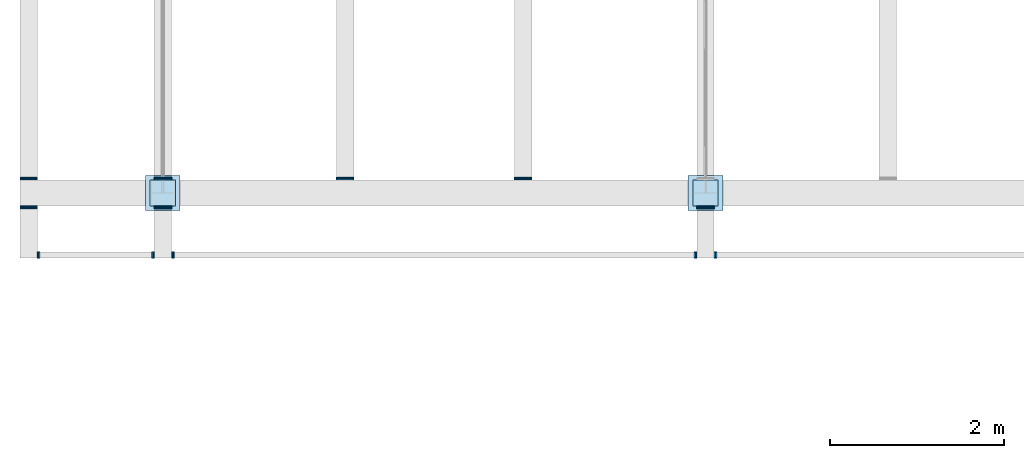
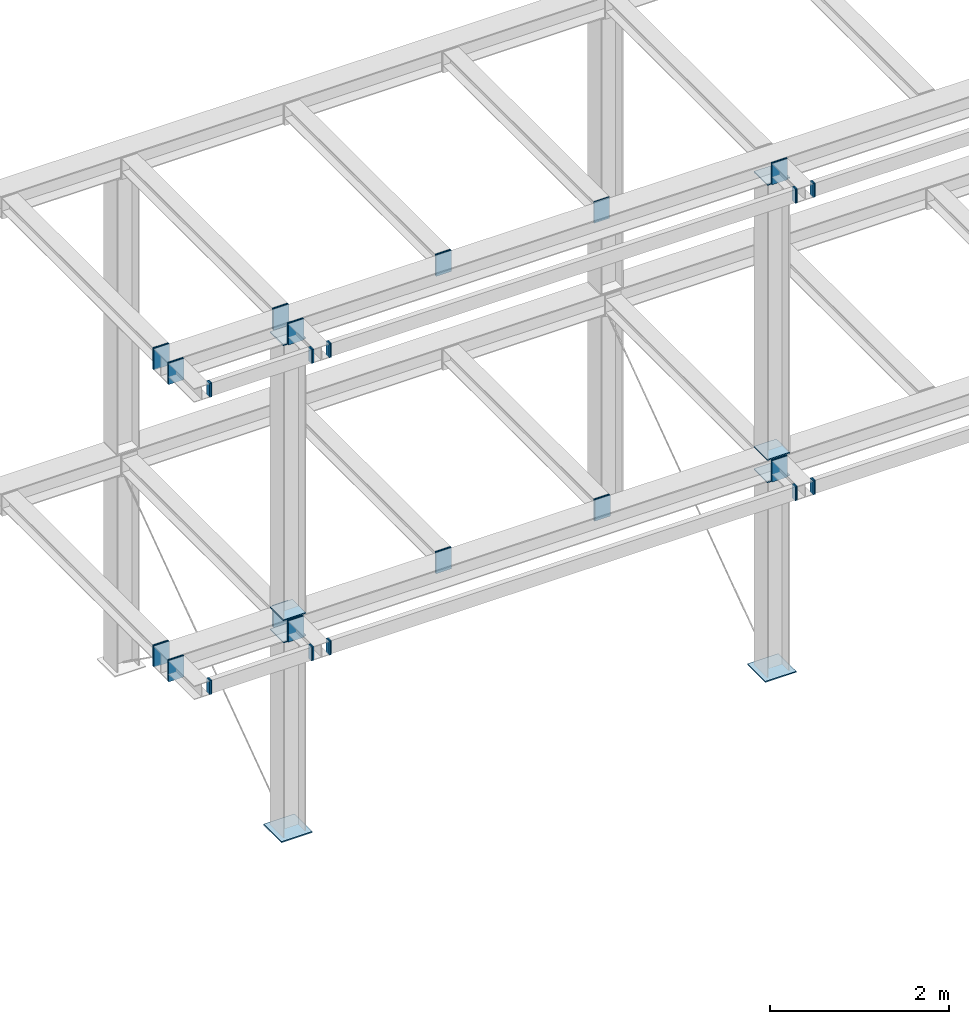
# One storey, part 14 of 24: 55 plates.
"""IFC2X3 building model written with IfcOpenShell, lengths in metres."""

import ifcopenshell
import ifcopenshell.guid

model = None  # the IFC model being written
_history = None  # IfcOwnerHistory: only IFC2X3 demands one
_inside = {}  # id of a spatial element -> (the spatial element, [elements in it])
_under = {}  # id of a project, library or spatial element -> (it, [spatial elements below it])
_declared = {}  # id of a project -> (the project, [libraries it declares])
_typed = {}  # id of a type object -> (the type object, [elements of that type])
_made_of = {}  # id of a material, layer set ... -> (it, [elements and type objects made of it])


def new_model(schema):
    """Start an empty IFC model of exactly this schema.

    Asked for "IFC4X3", IfcOpenShell would pick the latest addendum, in which some entities
    have other attributes; the version numbers below select the first issue.
    IFC2X3 requires an IfcOwnerHistory on every rooted entity: one is made here for all.
    """
    global model, _history
    if schema == "IFC4X3":
        model = ifcopenshell.file(schema_version=(4, 3, 0, 0))
    else:
        model = ifcopenshell.file(schema=schema)
    _inside.clear()
    _under.clear()
    _declared.clear()
    _typed.clear()
    _made_of.clear()
    _history = None
    if model.schema == "IFC2X3":
        org = make("IfcOrganization", Name="unknown")
        user = make(
            "IfcPersonAndOrganization",
            ThePerson=make("IfcPerson", FamilyName="unknown"),
            TheOrganization=org,
        )
        app = make(
            "IfcApplication",
            ApplicationDeveloper=org,
            Version="unknown",
            ApplicationFullName="unknown",
            ApplicationIdentifier="unknown",
        )
        _history = make(
            "IfcOwnerHistory",
            OwningUser=user,
            OwningApplication=app,
            ChangeAction="ADDED",
            CreationDate=0,
        )
    return model


def make(cls, **values):
    """One entity of the class cls with the attributes given. An attribute that is None is left unset."""
    return model.create_entity(
        cls, **{name: value for name, value in values.items() if value is not None}
    )


def entity(cls, *values):
    """Any entity or typed value of the class cls, its attributes in the order of the schema. None: left unset."""
    e = model.create_entity(cls)
    for i, value in enumerate(values):
        if value is not None:
            e[i] = value
    return e


def rooted(cls, **values):
    """An entity with a GlobalId (a new one), such as an element, a storey or a relation."""
    return make(cls, GlobalId=ifcopenshell.guid.new(), OwnerHistory=_history, **values)


def si_unit(unit_type, name, prefix=None):
    """IfcSIUnit, for example si_unit("LENGTHUNIT", "METRE", prefix="MILLI")."""
    return make("IfcSIUnit", UnitType=unit_type, Prefix=prefix, Name=name)


def converted_unit(unit_type, name, factor, base, dimensions=None, offset=None):
    """IfcConversionBasedUnit, such as the inch: factor (a typed value) times the base unit."""
    return make(
        "IfcConversionBasedUnit"
        if offset is None
        else "IfcConversionBasedUnitWithOffset",
        ConversionOffset=offset,
        Dimensions=None
        if dimensions is None
        else entity("IfcDimensionalExponents", *dimensions),
        UnitType=unit_type,
        Name=name,
        ConversionFactor=make(
            "IfcMeasureWithUnit", ValueComponent=factor, UnitComponent=base
        ),
    )


def derived_unit(unit_type, elements):
    """IfcDerivedUnit: a product of units, each with its exponent."""
    return make(
        "IfcDerivedUnit",
        Elements=[
            make("IfcDerivedUnitElement", Unit=unit, Exponent=power)
            for unit, power in elements
        ],
        UnitType=unit_type,
    )


def assignment(units):
    """IfcUnitAssignment: the units of a project."""
    return None if units is None else make("IfcUnitAssignment", Units=units)


def point(xyz):
    """IfcCartesianPoint."""
    return None if xyz is None else make("IfcCartesianPoint", Coordinates=xyz)


def direction(xyz):
    """IfcDirection."""
    return None if xyz is None else make("IfcDirection", DirectionRatios=xyz)


def frame(location, z_axis=None, x_axis=None):
    """IfcAxis2Placement3D, a coordinate frame: its origin and axes. An axis left out is left unset."""
    return make(
        "IfcAxis2Placement3D",
        Location=point(location),
        Axis=direction(z_axis),
        RefDirection=direction(x_axis),
    )


def origin():
    """The frame at (0, 0, 0) with its axes left unset."""
    return frame((0.0, 0.0, 0.0))


def place(relative_to, where):
    """IfcLocalPlacement: puts the frame where relative to a parent placement (None: the world)."""
    return make(
        "IfcLocalPlacement", PlacementRelTo=relative_to, RelativePlacement=where
    )


def context(
    kind, dimensions, precision=None, world=None, true_north=None, identifier=None
):
    """IfcGeometricRepresentationContext, for example the 3D "Model" context."""
    return make(
        "IfcGeometricRepresentationContext",
        ContextIdentifier=identifier,
        ContextType=kind,
        CoordinateSpaceDimension=dimensions,
        Precision=precision,
        WorldCoordinateSystem=world,
        TrueNorth=true_north,
    )


def subcontext(parent, identifier, kind, view, scale=None):
    """IfcGeometricRepresentationSubContext, for example "Body" below "Model"."""
    return make(
        "IfcGeometricRepresentationSubContext",
        ContextIdentifier=identifier,
        ContextType=kind,
        ParentContext=parent,
        TargetScale=scale,
        TargetView=view,
    )


def project(units=None, contexts=None):
    """IfcProject with its units and contexts."""
    return rooted(
        "IfcProject",
        Name="project",
        RepresentationContexts=contexts,
        UnitsInContext=assignment(units),
    )


def spatial(cls, under=None, at=None, **own):
    """A site, building, storey or space (cls), placed at a placement, below another one or the project."""
    s = rooted(cls, ObjectPlacement=at, **own)
    if under is not None:
        _under.setdefault(under.id(), (under, []))[1].append(s)
    return s


def faces_of(points, faces, orient=None, outer=None):
    """IfcFace entities. A face is a list of loops; a loop is a list of indices into points, from 0.

    orient and outer hold one flag for each loop. By default every Orientation is true, the
    first loop of a face is its IfcFaceOuterBound and the others are IfcFaceBound.
    """
    made = []
    for i, loops in enumerate(faces):
        bounds = []
        for j, loop in enumerate(loops):
            is_outer = j == 0 if outer is None else outer[i][j]
            bounds.append(
                make(
                    "IfcFaceOuterBound" if is_outer else "IfcFaceBound",
                    Bound=make("IfcPolyLoop", Polygon=[points[k] for k in loop]),
                    Orientation=True if orient is None else orient[i][j],
                )
            )
        made.append(make("IfcFace", Bounds=bounds))
    return made


def faceted_brep(points, faces, orient=None, outer=None, voids=None):
    """IfcFacetedBrep: a solid bounded by flat faces; with voids (closed shells), ...WithVoids."""
    shared = [point(p) for p in points]
    hull = make("IfcClosedShell", CfsFaces=faces_of(shared, faces, orient, outer))
    if voids is None:
        return make("IfcFacetedBrep", Outer=hull)
    return make(
        "IfcFacetedBrepWithVoids",
        Outer=hull,
        Voids=[
            make(cls, CfsFaces=faces_of(shared, fs, o, b)) for cls, fs, o, b in voids
        ],
    )


def shape(context_of_items, identifier, shape_type, items):
    """IfcShapeRepresentation: the items that make up one representation, for example the "Body"."""
    return make(
        "IfcShapeRepresentation",
        ContextOfItems=context_of_items,
        RepresentationIdentifier=identifier,
        RepresentationType=shape_type,
        Items=items,
    )


def material(Name=None, Category=None):
    """IfcMaterial."""
    return make("IfcMaterial", Name=Name, Category=Category)


def made_of(thing, what):
    """Note that an element or type object is made of a material, layer set ...; save() writes the relation."""
    if what is not None:
        _made_of.setdefault(what.id(), (what, []))[1].append(thing)
    return thing


def element(
    cls,
    number,
    at=None,
    inside=None,
    cuts=None,
    type_object=None,
    material=None,
    context=None,
    identifier="Body",
    shape_type=None,
    held_by="IfcProductDefinitionShape",
    body=None,
    shapes=None,
    **own,
):
    """One element of the class cls, such as IfcWall. Its Tag is "e" and its number.

    at: its placement. inside: the storey or other place that contains it. cuts: it is an
    opening in that element (IfcRelVoidsElement). A single representation is given by context,
    identifier, shape_type and body (its items); several are given by shapes. held_by: the class
    of the entity that holds the representations. save() writes the other relations.
    """
    e = rooted(cls, Tag="e%d" % number, ObjectPlacement=at, **own)
    if body is not None:
        shapes = [shape(context, identifier, shape_type, body)]
    if shapes is not None:
        e.Representation = make(held_by, Representations=shapes)
    if inside is not None:
        _inside.setdefault(inside.id(), (inside, []))[1].append(e)
    if cuts is not None:
        rooted(
            "IfcRelVoidsElement", RelatingBuildingElement=cuts, RelatedOpeningElement=e
        )
    if type_object is not None:
        _typed.setdefault(type_object.id(), (type_object, []))[1].append(e)
    return made_of(e, material)


def aggregate(whole, parts):
    """IfcRelAggregates: a whole, such as a stair, and the parts it consists of."""
    return rooted("IfcRelAggregates", RelatingObject=whole, RelatedObjects=parts)


def save(model, path):
    """Write the relations noted so far, then the file.

    IfcRelAggregates (storeys below a building ...), IfcRelContainedInSpatialStructure (elements
    in a storey), IfcRelDefinesByType, IfcRelAssociatesMaterial and IfcRelDeclares: one each for
    every whole, place, type object, material and project.
    """
    for whole, parts in _under.values():
        aggregate(whole, parts)
    for where, things in _inside.values():
        rooted(
            "IfcRelContainedInSpatialStructure",
            RelatedElements=things,
            RelatingStructure=where,
        )
    for kind, things in _typed.values():
        rooted("IfcRelDefinesByType", RelatedObjects=things, RelatingType=kind)
    for what, things in _made_of.values():
        rooted("IfcRelAssociatesMaterial", RelatedObjects=things, RelatingMaterial=what)
    for by, libraries in _declared.values():
        rooted("IfcRelDeclares", RelatingContext=by, RelatedDefinitions=libraries)
    model.write(path)


model = new_model("IFC2X3")

# Units and contexts
model_context = context("Model", 3, precision=1e-05, world=origin())
body_context = subcontext(model_context, "Body", "Model", "MODEL_VIEW")
ifc_project = project(units=[si_unit("LENGTHUNIT", "METRE"), si_unit("AREAUNIT", "SQUARE_METRE"), si_unit("VOLUMEUNIT", "CUBIC_METRE"), si_unit("MASSUNIT", "GRAM", prefix="KILO"), converted_unit("PLANEANGLEUNIT", "DEGREE", entity("IfcPlaneAngleMeasure", 0.0174532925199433), si_unit("PLANEANGLEUNIT", "RADIAN"), dimensions=[0, 0, 0, 0, 0, 0, 0]), derived_unit("THERMALTRANSMITTANCEUNIT", [(si_unit("POWERUNIT", "WATT"), 1), (si_unit("THERMODYNAMICTEMPERATUREUNIT", "KELVIN"), -1), (si_unit("LENGTHUNIT", "METRE"), -2)]), derived_unit("VOLUMETRICFLOWRATEUNIT", [(si_unit("LENGTHUNIT", "METRE"), 3), (converted_unit("TIMEUNIT", "hour", entity("IfcTimeMeasure", 3600.0), si_unit("TIMEUNIT", "SECOND"), dimensions=[0, 0, 1, 0, 0, 0, 0]), -1), (si_unit("LENGTHUNIT", "METRE"), -1)])], contexts=[model_context])

# Site, building, storey
site_placement = place(None, origin())
site = spatial("IfcSite", under=ifc_project, at=site_placement, Name="TWP_Speiseverteilzentrum SBW VZ II", CompositionType="ELEMENT")
building_placement = place(site_placement, origin())
building = spatial("IfcBuilding", under=site, at=building_placement, Name="Speiseverteilzentrum SBW VZ II", CompositionType="ELEMENT")
storey_placement = place(building_placement, frame((0.0, 0.0, 0.6957)))
storey = spatial("IfcBuildingStorey", under=building, at=storey_placement, Name="EG_Technik_FFB", CompositionType="ELEMENT", Elevation=0.6957)

# Plates
ifc_material_1 = material(Name="S235")
plate_1_placement = place(storey_placement, frame((49.5, 87.6399999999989, 3.34)))
element("IfcPlate", 1, at=plate_1_placement, inside=storey, material=ifc_material_1, Name="Stirnplatte", ObjectType="PLATE", context=body_context, shape_type="Brep", body=[
    faceted_brep([(0.0, 0.0, 0.0), (0.0, 0.015, 0.0), (0.0, 0.015, 0.29), (0.0, 0.0, 0.29), (0.2, 0.0, 0.0), (0.2, 0.015, 0.0), (0.2, 0.0, 0.29), (0.2, 0.015, 0.29)], [[[0, 1, 2, 3]], [[0, 4, 5, 1]], [[4, 6, 7, 5]], [[6, 3, 2, 7]], [[6, 4, 0, 3]], [[2, 1, 5, 7]]], orient=[[False], [False], [False], [False], [False], [False]]),
])
ifc_material_2 = material(Name="S235")
plate_2_placement = place(storey_placement, frame((49.5, 87.6249999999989, 3.34)))
element("IfcPlate", 2, at=plate_2_placement, inside=storey, material=ifc_material_2, Name="Stirnplatte", ObjectType="PLATE", context=body_context, shape_type="Brep", body=[
    faceted_brep([(0.0, 0.0, 0.0), (0.0, 0.015, 0.0), (0.0, 0.015, 0.29), (0.0, 0.0, 0.29), (0.2, 0.0, 0.0), (0.2, 0.015, 0.0), (0.2, 0.0, 0.29), (0.2, 0.015, 0.29)], [[[0, 1, 2, 3]], [[0, 4, 5, 1]], [[4, 6, 7, 5]], [[6, 3, 2, 7]], [[6, 4, 0, 3]], [[2, 1, 5, 7]]], orient=[[False], [False], [False], [False], [False], [False]]),
])
ifc_material_3 = material(Name="S235")
plate_3_placement = place(storey_placement, frame((49.5, 87.6399999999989, 7.4)))
element("IfcPlate", 3, at=plate_3_placement, inside=storey, material=ifc_material_3, Name="Stirnplatte", ObjectType="PLATE", context=body_context, shape_type="Brep", body=[
    faceted_brep([(0.0, 0.0, 0.0), (0.0, 0.015, 0.0), (0.0, 0.015, 0.29), (0.0, 0.0, 0.29), (0.2, 0.0, 0.0), (0.2, 0.015, 0.0), (0.2, 0.0, 0.29), (0.2, 0.015, 0.29)], [[[0, 1, 2, 3]], [[0, 4, 5, 1]], [[4, 6, 7, 5]], [[6, 3, 2, 7]], [[6, 4, 0, 3]], [[2, 1, 5, 7]]], orient=[[False], [False], [False], [False], [False], [False]]),
])
ifc_material_4 = material(Name="S235")
plate_4_placement = place(storey_placement, frame((49.5, 87.6249999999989, 7.4)))
element("IfcPlate", 4, at=plate_4_placement, inside=storey, material=ifc_material_4, Name="Stirnplatte", ObjectType="PLATE", context=body_context, shape_type="Brep", body=[
    faceted_brep([(0.0, 0.0, 0.0), (0.0, 0.015, 0.0), (0.0, 0.015, 0.29), (0.0, 0.0, 0.29), (0.2, 0.0, 0.0), (0.2, 0.015, 0.0), (0.2, 0.0, 0.29), (0.2, 0.015, 0.29)], [[[0, 1, 2, 3]], [[0, 4, 5, 1]], [[4, 6, 7, 5]], [[6, 3, 2, 7]], [[6, 4, 0, 3]], [[2, 1, 5, 7]]], orient=[[False], [False], [False], [False], [False], [False]]),
])
ifc_material_5 = material(Name="S235")
plate_5_placement = place(storey_placement, frame((51.55, 87.6399999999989, 3.34)))
element("IfcPlate", 5, at=plate_5_placement, inside=storey, material=ifc_material_5, Name="Stirnplatte", ObjectType="PLATE", context=body_context, shape_type="Brep", body=[
    faceted_brep([(0.0, 0.0, 0.0), (0.0, 0.015, 0.0), (0.0, 0.015, 0.29), (0.0, 0.0, 0.29), (0.2, 0.0, 0.0), (0.2, 0.015, 0.0), (0.2, 0.0, 0.29), (0.2, 0.015, 0.29)], [[[0, 1, 2, 3]], [[0, 4, 5, 1]], [[4, 6, 7, 5]], [[6, 3, 2, 7]], [[6, 4, 0, 3]], [[2, 1, 5, 7]]], orient=[[False], [False], [False], [False], [False], [False]]),
])
ifc_material_6 = material(Name="S235")
plate_6_placement = place(storey_placement, frame((51.55, 87.6249999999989, 3.34)))
element("IfcPlate", 6, at=plate_6_placement, inside=storey, material=ifc_material_6, Name="Stirnplatte", ObjectType="PLATE", context=body_context, shape_type="Brep", body=[
    faceted_brep([(0.0, 0.0, 0.0), (0.0, 0.015, 0.0), (0.0, 0.015, 0.29), (0.0, 0.0, 0.29), (0.2, 0.0, 0.0), (0.2, 0.015, 0.0), (0.2, 0.0, 0.29), (0.2, 0.015, 0.29)], [[[0, 1, 2, 3]], [[0, 4, 5, 1]], [[4, 6, 7, 5]], [[6, 3, 2, 7]], [[6, 4, 0, 3]], [[2, 1, 5, 7]]], orient=[[False], [False], [False], [False], [False], [False]]),
])
ifc_material_7 = material(Name="S235")
plate_7_placement = place(storey_placement, frame((51.55, 87.6399999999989, 7.4)))
element("IfcPlate", 7, at=plate_7_placement, inside=storey, material=ifc_material_7, Name="Stirnplatte", ObjectType="PLATE", context=body_context, shape_type="Brep", body=[
    faceted_brep([(0.0, 0.0, 0.0), (0.0, 0.015, 0.0), (0.0, 0.015, 0.29), (0.0, 0.0, 0.29), (0.2, 0.0, 0.0), (0.2, 0.015, 0.0), (0.2, 0.0, 0.29), (0.2, 0.015, 0.29)], [[[0, 1, 2, 3]], [[0, 4, 5, 1]], [[4, 6, 7, 5]], [[6, 3, 2, 7]], [[6, 4, 0, 3]], [[2, 1, 5, 7]]], orient=[[False], [False], [False], [False], [False], [False]]),
])
ifc_material_8 = material(Name="S235")
plate_8_placement = place(storey_placement, frame((53.65, 87.3099999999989, 3.34)))
element("IfcPlate", 8, at=plate_8_placement, inside=storey, material=ifc_material_8, Name="Kragarm", ObjectType="PLATE", context=body_context, shape_type="Brep", body=[
    faceted_brep([(0.0, 0.0, 0.0), (0.0, 0.015, 0.0), (0.0, 0.015, 0.29), (0.0, 0.0, 0.29), (0.2, 0.0, 0.0), (0.2, 0.015, 0.0), (0.2, 0.0, 0.29), (0.2, 0.015, 0.29)], [[[0, 1, 2, 3]], [[0, 4, 5, 1]], [[4, 6, 7, 5]], [[6, 3, 2, 7]], [[6, 4, 0, 3]], [[2, 1, 5, 7]]], orient=[[False], [False], [False], [False], [False], [False]]),
])
ifc_material_9 = material(Name="S235")
plate_9_placement = place(storey_placement, frame((53.65, 87.2949999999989, 3.34)))
element("IfcPlate", 9, at=plate_9_placement, inside=storey, material=ifc_material_9, Name="Kragarm", ObjectType="PLATE", context=body_context, shape_type="Brep", body=[
    faceted_brep([(0.0, 0.0, 0.0), (0.0, 0.015, 0.0), (0.0, 0.015, 0.29), (0.0, 0.0, 0.29), (0.2, 0.0, 0.0), (0.2, 0.015, 0.0), (0.2, 0.0, 0.29), (0.2, 0.015, 0.29)], [[[0, 1, 2, 3]], [[0, 4, 5, 1]], [[4, 6, 7, 5]], [[6, 3, 2, 7]], [[6, 4, 0, 3]], [[2, 1, 5, 7]]], orient=[[False], [False], [False], [False], [False], [False]]),
])
ifc_material_10 = material(Name="S235")
plate_10_placement = place(storey_placement, frame((53.65, 87.3099999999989, 7.4)))
element("IfcPlate", 10, at=plate_10_placement, inside=storey, material=ifc_material_10, Name="Kragarm", ObjectType="PLATE", context=body_context, shape_type="Brep", body=[
    faceted_brep([(0.0, 0.0, 0.0), (0.0, 0.015, 0.0), (0.0, 0.015, 0.29), (0.0, 0.0, 0.29), (0.2, 0.0, 0.0), (0.2, 0.015, 0.0), (0.2, 0.0, 0.29), (0.2, 0.015, 0.29)], [[[0, 1, 2, 3]], [[0, 4, 5, 1]], [[4, 6, 7, 5]], [[6, 3, 2, 7]], [[6, 4, 0, 3]], [[2, 1, 5, 7]]], orient=[[False], [False], [False], [False], [False], [False]]),
])
ifc_material_11 = material(Name="S235")
plate_11_placement = place(storey_placement, frame((53.65, 87.2949999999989, 7.4)))
element("IfcPlate", 11, at=plate_11_placement, inside=storey, material=ifc_material_11, Name="Kragarm", ObjectType="PLATE", context=body_context, shape_type="Brep", body=[
    faceted_brep([(0.0, 0.0, 0.0), (0.0, 0.015, 0.0), (0.0, 0.015, 0.29), (0.0, 0.0, 0.29), (0.2, 0.0, 0.0), (0.2, 0.015, 0.0), (0.2, 0.0, 0.29), (0.2, 0.015, 0.29)], [[[0, 1, 2, 3]], [[0, 4, 5, 1]], [[4, 6, 7, 5]], [[6, 3, 2, 7]], [[6, 4, 0, 3]], [[2, 1, 5, 7]]], orient=[[False], [False], [False], [False], [False], [False]]),
])
ifc_material_12 = material(Name="S235")
plate_12_placement = place(storey_placement, frame((47.4, 87.3099999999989, 3.34)))
element("IfcPlate", 12, at=plate_12_placement, inside=storey, material=ifc_material_12, Name="Kragarm", ObjectType="PLATE", context=body_context, shape_type="Brep", body=[
    faceted_brep([(0.0, 0.0, 0.0), (0.0, 0.015, 0.0), (0.0, 0.015, 0.29), (0.0, 0.0, 0.29), (0.2, 0.0, 0.0), (0.2, 0.015, 0.0), (0.2, 0.0, 0.29), (0.2, 0.015, 0.29)], [[[0, 1, 2, 3]], [[0, 4, 5, 1]], [[4, 6, 7, 5]], [[6, 3, 2, 7]], [[6, 4, 0, 3]], [[2, 1, 5, 7]]], orient=[[False], [False], [False], [False], [False], [False]]),
])
ifc_material_13 = material(Name="S235")
plate_13_placement = place(storey_placement, frame((47.4, 87.2949999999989, 3.34)))
element("IfcPlate", 13, at=plate_13_placement, inside=storey, material=ifc_material_13, Name="Kragarm", ObjectType="PLATE", context=body_context, shape_type="Brep", body=[
    faceted_brep([(0.0, 0.0, 0.0), (0.0, 0.015, 0.0), (0.0, 0.015, 0.29), (0.0, 0.0, 0.29), (0.2, 0.0, 0.0), (0.2, 0.015, 0.0), (0.2, 0.0, 0.29), (0.2, 0.015, 0.29)], [[[0, 1, 2, 3]], [[0, 4, 5, 1]], [[4, 6, 7, 5]], [[6, 3, 2, 7]], [[6, 4, 0, 3]], [[2, 1, 5, 7]]], orient=[[False], [False], [False], [False], [False], [False]]),
])
ifc_material_14 = material(Name="S235")
plate_14_placement = place(storey_placement, frame((47.4, 87.3099999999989, 7.4)))
element("IfcPlate", 14, at=plate_14_placement, inside=storey, material=ifc_material_14, Name="Kragarm", ObjectType="PLATE", context=body_context, shape_type="Brep", body=[
    faceted_brep([(0.0, 0.0, 0.0), (0.0, 0.015, 0.0), (0.0, 0.015, 0.29), (0.0, 0.0, 0.29), (0.2, 0.0, 0.0), (0.2, 0.015, 0.0), (0.2, 0.0, 0.29), (0.2, 0.015, 0.29)], [[[0, 1, 2, 3]], [[0, 4, 5, 1]], [[4, 6, 7, 5]], [[6, 3, 2, 7]], [[6, 4, 0, 3]], [[2, 1, 5, 7]]], orient=[[False], [False], [False], [False], [False], [False]]),
])
ifc_material_15 = material(Name="S235")
plate_15_placement = place(storey_placement, frame((47.4, 87.2949999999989, 7.4)))
element("IfcPlate", 15, at=plate_15_placement, inside=storey, material=ifc_material_15, Name="Kragarm", ObjectType="PLATE", context=body_context, shape_type="Brep", body=[
    faceted_brep([(0.0, 0.0, 0.0), (0.0, 0.015, 0.0), (0.0, 0.015, 0.29), (0.0, 0.0, 0.29), (0.2, 0.0, 0.0), (0.2, 0.015, 0.0), (0.2, 0.0, 0.29), (0.2, 0.015, 0.29)], [[[0, 1, 2, 3]], [[0, 4, 5, 1]], [[4, 6, 7, 5]], [[6, 3, 2, 7]], [[6, 4, 0, 3]], [[2, 1, 5, 7]]], orient=[[False], [False], [False], [False], [False], [False]]),
])
ifc_material_16 = material(Name="S235")
plate_16_placement = place(storey_placement, frame((47.615, 86.7249999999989, 3.44)))
element("IfcPlate", 16, at=plate_16_placement, inside=storey, material=ifc_material_16, Name="Stirnplatte", ObjectType="PLATE", context=body_context, shape_type="Brep", body=[
    faceted_brep([(0.0, 0.07, 0.0), (0.015, 0.07, 0.0), (0.015, 0.07, 0.19), (0.0, 0.07, 0.19), (0.0, 0.0, 0.0), (0.015, 0.0, 0.0), (0.0, 0.0, 0.19), (0.015, 0.0, 0.19)], [[[0, 1, 2, 3]], [[0, 4, 5, 1]], [[4, 6, 7, 5]], [[6, 3, 2, 7]], [[6, 4, 0, 3]], [[2, 1, 5, 7]]], orient=[[False], [False], [False], [False], [False], [False]]),
])
ifc_material_17 = material(Name="S235")
plate_17_placement = place(storey_placement, frame((47.6, 86.7249999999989, 3.44)))
element("IfcPlate", 17, at=plate_17_placement, inside=storey, material=ifc_material_17, Name="Stirnplatte", ObjectType="PLATE", context=body_context, shape_type="Brep", body=[
    faceted_brep([(0.0, 0.07, 0.0), (0.015, 0.07, 0.0), (0.015, 0.07, 0.19), (0.0, 0.07, 0.19), (0.0, 0.0, 0.0), (0.015, 0.0, 0.0), (0.0, 0.0, 0.19), (0.015, 0.0, 0.19)], [[[0, 1, 2, 3]], [[0, 4, 5, 1]], [[4, 6, 7, 5]], [[6, 3, 2, 7]], [[6, 4, 0, 3]], [[2, 1, 5, 7]]], orient=[[False], [False], [False], [False], [False], [False]]),
])
ifc_material_18 = material(Name="S235")
plate_18_placement = place(storey_placement, frame((47.615, 86.7249999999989, 7.5)))
element("IfcPlate", 18, at=plate_18_placement, inside=storey, material=ifc_material_18, Name="Stirnplatte", ObjectType="PLATE", context=body_context, shape_type="Brep", body=[
    faceted_brep([(0.0, 0.07, 0.0), (0.015, 0.07, 0.0), (0.015, 0.07, 0.19), (0.0, 0.07, 0.19), (0.0, 0.0, 0.0), (0.015, 0.0, 0.0), (0.0, 0.0, 0.19), (0.015, 0.0, 0.19)], [[[0, 1, 2, 3]], [[0, 4, 5, 1]], [[4, 6, 7, 5]], [[6, 3, 2, 7]], [[6, 4, 0, 3]], [[2, 1, 5, 7]]], orient=[[False], [False], [False], [False], [False], [False]]),
])
ifc_material_19 = material(Name="S235")
plate_19_placement = place(storey_placement, frame((47.6, 86.7249999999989, 7.5)))
element("IfcPlate", 19, at=plate_19_placement, inside=storey, material=ifc_material_19, Name="Stirnplatte", ObjectType="PLATE", context=body_context, shape_type="Brep", body=[
    faceted_brep([(0.0, 0.07, 0.0), (0.015, 0.07, 0.0), (0.015, 0.07, 0.19), (0.0, 0.07, 0.19), (0.0, 0.0, 0.0), (0.015, 0.0, 0.0), (0.0, 0.0, 0.19), (0.015, 0.0, 0.19)], [[[0, 1, 2, 3]], [[0, 4, 5, 1]], [[4, 6, 7, 5]], [[6, 3, 2, 7]], [[6, 4, 0, 3]], [[2, 1, 5, 7]]], orient=[[False], [False], [False], [False], [False], [False]]),
])
ifc_material_20 = material(Name="S235")
plate_20_placement = place(storey_placement, frame((47.385, 86.724999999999, 3.44)))
element("IfcPlate", 20, at=plate_20_placement, inside=storey, material=ifc_material_20, Name="Stirnplatte", ObjectType="PLATE", context=body_context, shape_type="Brep", body=[
    faceted_brep([(0.0, 0.07, 0.0), (0.015, 0.07, 0.0), (0.015, 0.07, 0.19), (0.0, 0.07, 0.19), (0.0, 0.0, 0.0), (0.015, 0.0, 0.0), (0.0, 0.0, 0.19), (0.015, 0.0, 0.19)], [[[0, 1, 2, 3]], [[0, 4, 5, 1]], [[4, 6, 7, 5]], [[6, 3, 2, 7]], [[6, 4, 0, 3]], [[2, 1, 5, 7]]], orient=[[False], [False], [False], [False], [False], [False]]),
])
ifc_material_21 = material(Name="S235")
plate_21_placement = place(storey_placement, frame((47.37, 86.724999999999, 3.44)))
element("IfcPlate", 21, at=plate_21_placement, inside=storey, material=ifc_material_21, Name="Stirnplatte", ObjectType="PLATE", context=body_context, shape_type="Brep", body=[
    faceted_brep([(0.0, 0.07, 0.0), (0.015, 0.07, 0.0), (0.015, 0.07, 0.19), (0.0, 0.07, 0.19), (0.0, 0.0, 0.0), (0.015, 0.0, 0.0), (0.0, 0.0, 0.19), (0.015, 0.0, 0.19)], [[[0, 1, 2, 3]], [[0, 4, 5, 1]], [[4, 6, 7, 5]], [[6, 3, 2, 7]], [[6, 4, 0, 3]], [[2, 1, 5, 7]]], orient=[[False], [False], [False], [False], [False], [False]]),
])
ifc_material_22 = material(Name="S235")
plate_22_placement = place(storey_placement, frame((47.385, 86.7249999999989, 7.5)))
element("IfcPlate", 22, at=plate_22_placement, inside=storey, material=ifc_material_22, Name="Stirnplatte", ObjectType="PLATE", context=body_context, shape_type="Brep", body=[
    faceted_brep([(0.0, 0.07, 0.0), (0.015, 0.07, 0.0), (0.015, 0.07, 0.19), (0.0, 0.07, 0.19), (0.0, 0.0, 0.0), (0.015, 0.0, 0.0), (0.0, 0.0, 0.19), (0.015, 0.0, 0.19)], [[[0, 1, 2, 3]], [[0, 4, 5, 1]], [[4, 6, 7, 5]], [[6, 3, 2, 7]], [[6, 4, 0, 3]], [[2, 1, 5, 7]]], orient=[[False], [False], [False], [False], [False], [False]]),
])
ifc_material_23 = material(Name="S235")
plate_23_placement = place(storey_placement, frame((47.37, 86.7249999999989, 7.5)))
element("IfcPlate", 23, at=plate_23_placement, inside=storey, material=ifc_material_23, Name="Stirnplatte", ObjectType="PLATE", context=body_context, shape_type="Brep", body=[
    faceted_brep([(0.0, 0.07, 0.0), (0.015, 0.07, 0.0), (0.015, 0.07, 0.19), (0.0, 0.07, 0.19), (0.0, 0.0, 0.0), (0.015, 0.0, 0.0), (0.0, 0.0, 0.19), (0.015, 0.0, 0.19)], [[[0, 1, 2, 3]], [[0, 4, 5, 1]], [[4, 6, 7, 5]], [[6, 3, 2, 7]], [[6, 4, 0, 3]], [[2, 1, 5, 7]]], orient=[[False], [False], [False], [False], [False], [False]]),
])
ifc_material_24 = material(Name="S235")
plate_24_placement = place(storey_placement, frame((53.635, 86.724999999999, 3.44)))
element("IfcPlate", 24, at=plate_24_placement, inside=storey, material=ifc_material_24, Name="Stirnplatte", ObjectType="PLATE", context=body_context, shape_type="Brep", body=[
    faceted_brep([(0.0, 0.07, 0.0), (0.015, 0.07, 0.0), (0.015, 0.07, 0.19), (0.0, 0.07, 0.19), (0.0, 0.0, 0.0), (0.015, 0.0, 0.0), (0.0, 0.0, 0.19), (0.015, 0.0, 0.19)], [[[0, 1, 2, 3]], [[0, 4, 5, 1]], [[4, 6, 7, 5]], [[6, 3, 2, 7]], [[6, 4, 0, 3]], [[2, 1, 5, 7]]], orient=[[False], [False], [False], [False], [False], [False]]),
])
ifc_material_25 = material(Name="S235")
plate_25_placement = place(storey_placement, frame((53.62, 86.724999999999, 3.44)))
element("IfcPlate", 25, at=plate_25_placement, inside=storey, material=ifc_material_25, Name="Stirnplatte", ObjectType="PLATE", context=body_context, shape_type="Brep", body=[
    faceted_brep([(0.0, 0.07, 0.0), (0.015, 0.07, 0.0), (0.015, 0.07, 0.19), (0.0, 0.07, 0.19), (0.0, 0.0, 0.0), (0.015, 0.0, 0.0), (0.0, 0.0, 0.19), (0.015, 0.0, 0.19)], [[[0, 1, 2, 3]], [[0, 4, 5, 1]], [[4, 6, 7, 5]], [[6, 3, 2, 7]], [[6, 4, 0, 3]], [[2, 1, 5, 7]]], orient=[[False], [False], [False], [False], [False], [False]]),
])
ifc_material_26 = material(Name="S235")
plate_26_placement = place(storey_placement, frame((53.635, 86.7249999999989, 7.5)))
element("IfcPlate", 26, at=plate_26_placement, inside=storey, material=ifc_material_26, Name="Stirnplatte", ObjectType="PLATE", context=body_context, shape_type="Brep", body=[
    faceted_brep([(0.0, 0.07, 0.0), (0.015, 0.07, 0.0), (0.015, 0.07, 0.19), (0.0, 0.07, 0.19), (0.0, 0.0, 0.0), (0.015, 0.0, 0.0), (0.0, 0.0, 0.19), (0.015, 0.0, 0.19)], [[[0, 1, 2, 3]], [[0, 4, 5, 1]], [[4, 6, 7, 5]], [[6, 3, 2, 7]], [[6, 4, 0, 3]], [[2, 1, 5, 7]]], orient=[[False], [False], [False], [False], [False], [False]]),
])
ifc_material_27 = material(Name="S235")
plate_27_placement = place(storey_placement, frame((53.62, 86.7249999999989, 7.5)))
element("IfcPlate", 27, at=plate_27_placement, inside=storey, material=ifc_material_27, Name="Stirnplatte", ObjectType="PLATE", context=body_context, shape_type="Brep", body=[
    faceted_brep([(0.0, 0.07, 0.0), (0.015, 0.07, 0.0), (0.015, 0.07, 0.19), (0.0, 0.07, 0.19), (0.0, 0.0, 0.0), (0.015, 0.0, 0.0), (0.0, 0.0, 0.19), (0.015, 0.0, 0.19)], [[[0, 1, 2, 3]], [[0, 4, 5, 1]], [[4, 6, 7, 5]], [[6, 3, 2, 7]], [[6, 4, 0, 3]], [[2, 1, 5, 7]]], orient=[[False], [False], [False], [False], [False], [False]]),
])
ifc_material_28 = material(Name="S235")
plate_28_placement = place(storey_placement, frame((53.865, 86.7249999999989, 3.44)))
element("IfcPlate", 28, at=plate_28_placement, inside=storey, material=ifc_material_28, Name="Stirnplatte", ObjectType="PLATE", context=body_context, shape_type="Brep", body=[
    faceted_brep([(0.0, 0.07, 0.0), (0.015, 0.07, 0.0), (0.015, 0.07, 0.19), (0.0, 0.07, 0.19), (0.0, 0.0, 0.0), (0.015, 0.0, 0.0), (0.0, 0.0, 0.19), (0.015, 0.0, 0.19)], [[[0, 1, 2, 3]], [[0, 4, 5, 1]], [[4, 6, 7, 5]], [[6, 3, 2, 7]], [[6, 4, 0, 3]], [[2, 1, 5, 7]]], orient=[[False], [False], [False], [False], [False], [False]]),
])
ifc_material_29 = material(Name="S235")
plate_29_placement = place(storey_placement, frame((53.85, 86.7249999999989, 3.44)))
element("IfcPlate", 29, at=plate_29_placement, inside=storey, material=ifc_material_29, Name="Stirnplatte", ObjectType="PLATE", context=body_context, shape_type="Brep", body=[
    faceted_brep([(0.0, 0.07, 0.0), (0.015, 0.07, 0.0), (0.015, 0.07, 0.19), (0.0, 0.07, 0.19), (0.0, 0.0, 0.0), (0.015, 0.0, 0.0), (0.0, 0.0, 0.19), (0.015, 0.0, 0.19)], [[[0, 1, 2, 3]], [[0, 4, 5, 1]], [[4, 6, 7, 5]], [[6, 3, 2, 7]], [[6, 4, 0, 3]], [[2, 1, 5, 7]]], orient=[[False], [False], [False], [False], [False], [False]]),
])
ifc_material_30 = material(Name="S235")
plate_30_placement = place(storey_placement, frame((53.865, 86.7249999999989, 7.5)))
element("IfcPlate", 30, at=plate_30_placement, inside=storey, material=ifc_material_30, Name="Stirnplatte", ObjectType="PLATE", context=body_context, shape_type="Brep", body=[
    faceted_brep([(0.0, 0.07, 0.0), (0.015, 0.07, 0.0), (0.015, 0.07, 0.19), (0.0, 0.07, 0.19), (0.0, 0.0, 0.0), (0.015, 0.0, 0.0), (0.0, 0.0, 0.19), (0.015, 0.0, 0.19)], [[[0, 1, 2, 3]], [[0, 4, 5, 1]], [[4, 6, 7, 5]], [[6, 3, 2, 7]], [[6, 4, 0, 3]], [[2, 1, 5, 7]]], orient=[[False], [False], [False], [False], [False], [False]]),
])
ifc_material_31 = material(Name="S235")
plate_31_placement = place(storey_placement, frame((53.85, 86.7249999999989, 7.5)))
element("IfcPlate", 31, at=plate_31_placement, inside=storey, material=ifc_material_31, Name="Stirnplatte", ObjectType="PLATE", context=body_context, shape_type="Brep", body=[
    faceted_brep([(0.0, 0.07, 0.0), (0.015, 0.07, 0.0), (0.015, 0.07, 0.19), (0.0, 0.07, 0.19), (0.0, 0.0, 0.0), (0.015, 0.0, 0.0), (0.0, 0.0, 0.19), (0.015, 0.0, 0.19)], [[[0, 1, 2, 3]], [[0, 4, 5, 1]], [[4, 6, 7, 5]], [[6, 3, 2, 7]], [[6, 4, 0, 3]], [[2, 1, 5, 7]]], orient=[[False], [False], [False], [False], [False], [False]]),
])
ifc_material_32 = material(Name="S235")
plate_32_placement = place(storey_placement, frame((47.4, 87.6249999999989, 7.4)))
element("IfcPlate", 32, at=plate_32_placement, inside=storey, material=ifc_material_32, Name="Stirnplatte", context=body_context, shape_type="Brep", body=[
    faceted_brep([(0.2, 0.015, 0.0), (0.2, 0.0, 0.0), (0.2, 0.0, 0.29), (0.2, 0.015, 0.29), (0.0, 0.015, 0.0), (0.0, 0.0, 0.0), (0.0, 0.015, 0.29), (0.0, 0.0, 0.29)], [[[0, 1, 2, 3]], [[0, 4, 5, 1]], [[4, 6, 7, 5]], [[6, 3, 2, 7]], [[6, 4, 0, 3]], [[2, 1, 5, 7]]], orient=[[False], [False], [False], [False], [False], [False]]),
])
ifc_material_33 = material(Name="S235")
plate_33_placement = place(storey_placement, frame((47.4, 87.6399999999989, 7.4)))
element("IfcPlate", 33, at=plate_33_placement, inside=storey, material=ifc_material_33, Name="Stirnplatte", context=body_context, shape_type="Brep", body=[
    faceted_brep([(0.2, 0.015, 0.0), (0.2, 0.0, 0.0), (0.2, 0.0, 0.29), (0.2, 0.015, 0.29), (0.0, 0.015, 0.0), (0.0, 0.0, 0.0), (0.0, 0.015, 0.29), (0.0, 0.0, 0.29)], [[[0, 1, 2, 3]], [[0, 4, 5, 1]], [[4, 6, 7, 5]], [[6, 3, 2, 7]], [[6, 4, 0, 3]], [[2, 1, 5, 7]]], orient=[[False], [False], [False], [False], [False], [False]]),
])
ifc_material_34 = material(Name="S235")
plate_34_placement = place(storey_placement, frame((47.4, 87.6399999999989, 3.34)))
element("IfcPlate", 34, at=plate_34_placement, inside=storey, material=ifc_material_34, Name="Stirnplatte", ObjectType="PLATE", context=body_context, shape_type="Brep", body=[
    faceted_brep([(0.2, 0.015, 0.0), (0.2, 0.0, 0.0), (0.2, 0.0, 0.29), (0.2, 0.015, 0.29), (0.0, 0.015, 0.0), (0.0, 0.0, 0.0), (0.0, 0.015, 0.29), (0.0, 0.0, 0.29)], [[[0, 1, 2, 3]], [[0, 4, 5, 1]], [[4, 6, 7, 5]], [[6, 3, 2, 7]], [[6, 4, 0, 3]], [[2, 1, 5, 7]]], orient=[[False], [False], [False], [False], [False], [False]]),
])
ifc_material_35 = material(Name="S235")
plate_35_placement = place(storey_placement, frame((47.4, 87.6249999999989, 3.34)))
element("IfcPlate", 35, at=plate_35_placement, inside=storey, material=ifc_material_35, Name="Stirnplatte", ObjectType="PLATE", context=body_context, shape_type="Brep", body=[
    faceted_brep([(0.2, 0.015, 0.0), (0.2, 0.0, 0.0), (0.2, 0.0, 0.29), (0.2, 0.015, 0.29), (0.0, 0.015, 0.0), (0.0, 0.0, 0.0), (0.0, 0.015, 0.29), (0.0, 0.0, 0.29)], [[[0, 1, 2, 3]], [[0, 4, 5, 1]], [[4, 6, 7, 5]], [[6, 3, 2, 7]], [[6, 4, 0, 3]], [[2, 1, 5, 7]]], orient=[[False], [False], [False], [False], [False], [False]]),
])
ifc_material_36 = material(Name="S235")
plate_36_placement = place(storey_placement, frame((53.55, 87.2749999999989, 0.649699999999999)))
element("IfcPlate", 36, at=plate_36_placement, inside=storey, material=ifc_material_36, Name="Fußplatte", ObjectType="PLATE", context=body_context, shape_type="Brep", body=[
    faceted_brep([(0.0, 0.4, 0.0), (0.0, 0.4, 0.015), (0.4, 0.4, 0.015), (0.4, 0.4, 0.0), (0.0, 0.0, 0.0), (0.0, 0.0, 0.015), (0.4, 0.0, 0.0), (0.4, 0.0, 0.015)], [[[0, 1, 2, 3]], [[0, 4, 5, 1]], [[4, 6, 7, 5]], [[6, 3, 2, 7]], [[6, 4, 0, 3]], [[2, 1, 5, 7]]], orient=[[False], [False], [False], [False], [False], [False]]),
])
ifc_material_37 = material(Name="S235")
plate_37_placement = place(storey_placement, frame((53.605, 87.3249999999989, 3.325)))
element("IfcPlate", 37, at=plate_37_placement, inside=storey, material=ifc_material_37, Name="Kopfplatte", ObjectType="PLATE", context=body_context, shape_type="Brep", body=[
    faceted_brep([(0.29, 0.0, 0.015), (0.29, 0.0, 0.0), (0.29, 0.3, 0.0), (0.29, 0.3, 0.015), (0.0, 0.0, 0.015), (0.0, 0.0, 0.0), (0.0, 0.3, 0.015), (0.0, 0.3, 0.0)], [[[0, 1, 2, 3]], [[0, 4, 5, 1]], [[4, 6, 7, 5]], [[6, 3, 2, 7]], [[6, 4, 0, 3]], [[2, 1, 5, 7]]], orient=[[False], [False], [False], [False], [False], [False]]),
])
ifc_material_38 = material(Name="S235")
plate_38_placement = place(storey_placement, frame((53.605, 87.3249999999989, 3.63)))
element("IfcPlate", 38, at=plate_38_placement, inside=storey, material=ifc_material_38, Name="Fußplatte", ObjectType="PLATE", context=body_context, shape_type="Brep", body=[
    faceted_brep([(0.29, 0.0, 0.015), (0.29, 0.0, 0.0), (0.29, 0.3, 0.0), (0.29, 0.3, 0.015), (0.0, 0.0, 0.015), (0.0, 0.0, 0.0), (0.0, 0.3, 0.015), (0.0, 0.3, 0.0)], [[[0, 1, 2, 3]], [[0, 4, 5, 1]], [[4, 6, 7, 5]], [[6, 3, 2, 7]], [[6, 4, 0, 3]], [[2, 1, 5, 7]]], orient=[[False], [False], [False], [False], [False], [False]]),
])
ifc_material_39 = material(Name="S235")
plate_39_placement = place(storey_placement, frame((53.605, 87.3249999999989, 7.385)))
element("IfcPlate", 39, at=plate_39_placement, inside=storey, material=ifc_material_39, Name="Kopfplatte", ObjectType="PLATE", context=body_context, shape_type="Brep", body=[
    faceted_brep([(0.29, 0.0, 0.015), (0.29, 0.0, 0.0), (0.29, 0.3, 0.0), (0.29, 0.3, 0.015), (0.0, 0.0, 0.015), (0.0, 0.0, 0.0), (0.0, 0.3, 0.015), (0.0, 0.3, 0.0)], [[[0, 1, 2, 3]], [[0, 4, 5, 1]], [[4, 6, 7, 5]], [[6, 3, 2, 7]], [[6, 4, 0, 3]], [[2, 1, 5, 7]]], orient=[[False], [False], [False], [False], [False], [False]]),
])
ifc_material_40 = material(Name="S235")
plate_40_placement = place(storey_placement, frame((47.3, 87.2749999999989, 0.649699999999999)))
element("IfcPlate", 40, at=plate_40_placement, inside=storey, material=ifc_material_40, Name="Fußplatte", ObjectType="PLATE", context=body_context, shape_type="Brep", body=[
    faceted_brep([(0.0, 0.4, 0.0), (0.0, 0.4, 0.015), (0.4, 0.4, 0.015), (0.4, 0.4, 0.0), (0.0, 0.0, 0.0), (0.0, 0.0, 0.015), (0.4, 0.0, 0.0), (0.4, 0.0, 0.015)], [[[0, 1, 2, 3]], [[0, 4, 5, 1]], [[4, 6, 7, 5]], [[6, 3, 2, 7]], [[6, 4, 0, 3]], [[2, 1, 5, 7]]], orient=[[False], [False], [False], [False], [False], [False]]),
])
ifc_material_41 = material(Name="S235")
plate_41_placement = place(storey_placement, frame((47.355, 87.3249999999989, 3.325)))
element("IfcPlate", 41, at=plate_41_placement, inside=storey, material=ifc_material_41, Name="Kopfplatte", ObjectType="PLATE", context=body_context, shape_type="Brep", body=[
    faceted_brep([(0.29, 0.0, 0.015), (0.29, 0.0, 0.0), (0.29, 0.3, 0.0), (0.29, 0.3, 0.015), (0.0, 0.0, 0.015), (0.0, 0.0, 0.0), (0.0, 0.3, 0.015), (0.0, 0.3, 0.0)], [[[0, 1, 2, 3]], [[0, 4, 5, 1]], [[4, 6, 7, 5]], [[6, 3, 2, 7]], [[6, 4, 0, 3]], [[2, 1, 5, 7]]], orient=[[False], [False], [False], [False], [False], [False]]),
])
ifc_material_42 = material(Name="S235")
plate_42_placement = place(storey_placement, frame((47.355, 87.3249999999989, 3.63)))
element("IfcPlate", 42, at=plate_42_placement, inside=storey, material=ifc_material_42, Name="Fußplatte", ObjectType="PLATE", context=body_context, shape_type="Brep", body=[
    faceted_brep([(0.29, 0.0, 0.015), (0.29, 0.0, 0.0), (0.29, 0.3, 0.0), (0.29, 0.3, 0.015), (0.0, 0.0, 0.015), (0.0, 0.0, 0.0), (0.0, 0.3, 0.015), (0.0, 0.3, 0.0)], [[[0, 1, 2, 3]], [[0, 4, 5, 1]], [[4, 6, 7, 5]], [[6, 3, 2, 7]], [[6, 4, 0, 3]], [[2, 1, 5, 7]]], orient=[[False], [False], [False], [False], [False], [False]]),
])
ifc_material_43 = material(Name="S235")
plate_43_placement = place(storey_placement, frame((47.355, 87.3249999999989, 7.385)))
element("IfcPlate", 43, at=plate_43_placement, inside=storey, material=ifc_material_43, Name="Kopfplatte", ObjectType="PLATE", context=body_context, shape_type="Brep", body=[
    faceted_brep([(0.29, 0.0, 0.015), (0.29, 0.0, 0.0), (0.29, 0.3, 0.0), (0.29, 0.3, 0.015), (0.0, 0.0, 0.015), (0.0, 0.0, 0.0), (0.0, 0.3, 0.015), (0.0, 0.3, 0.0)], [[[0, 1, 2, 3]], [[0, 4, 5, 1]], [[4, 6, 7, 5]], [[6, 3, 2, 7]], [[6, 4, 0, 3]], [[2, 1, 5, 7]]], orient=[[False], [False], [False], [False], [False], [False]]),
])
ifc_material_44 = material(Name="S235")
plate_44_placement = place(storey_placement, frame((45.855, 87.6399999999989, 3.34)))
element("IfcPlate", 44, at=plate_44_placement, inside=storey, material=ifc_material_44, Name="Stirnplatte", ObjectType="PLATE", context=body_context, shape_type="Brep", body=[
    faceted_brep([(0.0, 0.0, 0.0), (0.0, 0.015, 0.0), (0.0, 0.015, 0.29), (0.0, 0.0, 0.29), (0.2, 0.0, 0.0), (0.2, 0.015, 0.0), (0.2, 0.0, 0.29), (0.2, 0.015, 0.29)], [[[0, 1, 2, 3]], [[0, 4, 5, 1]], [[4, 6, 7, 5]], [[6, 3, 2, 7]], [[6, 4, 0, 3]], [[2, 1, 5, 7]]], orient=[[False], [False], [False], [False], [False], [False]]),
])
ifc_material_45 = material(Name="S235")
plate_45_placement = place(storey_placement, frame((45.855, 87.6249999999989, 3.34)))
element("IfcPlate", 45, at=plate_45_placement, inside=storey, material=ifc_material_45, Name="Stirnplatte", ObjectType="PLATE", context=body_context, shape_type="Brep", body=[
    faceted_brep([(0.0, 0.0, 0.0), (0.0, 0.015, 0.0), (0.0, 0.015, 0.29), (0.0, 0.0, 0.29), (0.2, 0.0, 0.0), (0.2, 0.015, 0.0), (0.2, 0.0, 0.29), (0.2, 0.015, 0.29)], [[[0, 1, 2, 3]], [[0, 4, 5, 1]], [[4, 6, 7, 5]], [[6, 3, 2, 7]], [[6, 4, 0, 3]], [[2, 1, 5, 7]]], orient=[[False], [False], [False], [False], [False], [False]]),
])
ifc_material_46 = material(Name="S235")
plate_46_placement = place(storey_placement, frame((45.855, 87.6399999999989, 7.4)))
element("IfcPlate", 46, at=plate_46_placement, inside=storey, material=ifc_material_46, Name="Stirnplatte", ObjectType="PLATE", context=body_context, shape_type="Brep", body=[
    faceted_brep([(0.0, 0.0, 0.0), (0.0, 0.015, 0.0), (0.0, 0.015, 0.29), (0.0, 0.0, 0.29), (0.2, 0.0, 0.0), (0.2, 0.015, 0.0), (0.2, 0.0, 0.29), (0.2, 0.015, 0.29)], [[[0, 1, 2, 3]], [[0, 4, 5, 1]], [[4, 6, 7, 5]], [[6, 3, 2, 7]], [[6, 4, 0, 3]], [[2, 1, 5, 7]]], orient=[[False], [False], [False], [False], [False], [False]]),
])
ifc_material_47 = material(Name="S235")
plate_47_placement = place(storey_placement, frame((45.855, 87.6249999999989, 7.4)))
element("IfcPlate", 47, at=plate_47_placement, inside=storey, material=ifc_material_47, Name="Stirnplatte", ObjectType="PLATE", context=body_context, shape_type="Brep", body=[
    faceted_brep([(0.0, 0.0, 0.0), (0.0, 0.015, 0.0), (0.0, 0.015, 0.29), (0.0, 0.0, 0.29), (0.2, 0.0, 0.0), (0.2, 0.015, 0.0), (0.2, 0.0, 0.29), (0.2, 0.015, 0.29)], [[[0, 1, 2, 3]], [[0, 4, 5, 1]], [[4, 6, 7, 5]], [[6, 3, 2, 7]], [[6, 4, 0, 3]], [[2, 1, 5, 7]]], orient=[[False], [False], [False], [False], [False], [False]]),
])
ifc_material_48 = material(Name="S235")
plate_48_placement = place(storey_placement, frame((45.855, 87.3099999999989, 3.34)))
element("IfcPlate", 48, at=plate_48_placement, inside=storey, material=ifc_material_48, Name="Kragarm", ObjectType="PLATE", context=body_context, shape_type="Brep", body=[
    faceted_brep([(0.0, 0.0, 0.0), (0.0, 0.015, 0.0), (0.0, 0.015, 0.29), (0.0, 0.0, 0.29), (0.2, 0.0, 0.0), (0.2, 0.015, 0.0), (0.2, 0.0, 0.29), (0.2, 0.015, 0.29)], [[[0, 1, 2, 3]], [[0, 4, 5, 1]], [[4, 6, 7, 5]], [[6, 3, 2, 7]], [[6, 4, 0, 3]], [[2, 1, 5, 7]]], orient=[[False], [False], [False], [False], [False], [False]]),
])
ifc_material_49 = material(Name="S235")
plate_49_placement = place(storey_placement, frame((45.855, 87.2949999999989, 3.34)))
element("IfcPlate", 49, at=plate_49_placement, inside=storey, material=ifc_material_49, Name="Kragarm", ObjectType="PLATE", context=body_context, shape_type="Brep", body=[
    faceted_brep([(0.0, 0.0, 0.0), (0.0, 0.015, 0.0), (0.0, 0.015, 0.29), (0.0, 0.0, 0.29), (0.2, 0.0, 0.0), (0.2, 0.015, 0.0), (0.2, 0.0, 0.29), (0.2, 0.015, 0.29)], [[[0, 1, 2, 3]], [[0, 4, 5, 1]], [[4, 6, 7, 5]], [[6, 3, 2, 7]], [[6, 4, 0, 3]], [[2, 1, 5, 7]]], orient=[[False], [False], [False], [False], [False], [False]]),
])
ifc_material_50 = material(Name="S235")
plate_50_placement = place(storey_placement, frame((45.855, 87.3099999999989, 7.4)))
element("IfcPlate", 50, at=plate_50_placement, inside=storey, material=ifc_material_50, Name="Kragarm", ObjectType="PLATE", context=body_context, shape_type="Brep", body=[
    faceted_brep([(0.0, 0.0, 0.0), (0.0, 0.015, 0.0), (0.0, 0.015, 0.29), (0.0, 0.0, 0.29), (0.2, 0.0, 0.0), (0.2, 0.015, 0.0), (0.2, 0.0, 0.29), (0.2, 0.015, 0.29)], [[[0, 1, 2, 3]], [[0, 4, 5, 1]], [[4, 6, 7, 5]], [[6, 3, 2, 7]], [[6, 4, 0, 3]], [[2, 1, 5, 7]]], orient=[[False], [False], [False], [False], [False], [False]]),
])
ifc_material_51 = material(Name="S235")
plate_51_placement = place(storey_placement, frame((45.855, 87.2949999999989, 7.4)))
element("IfcPlate", 51, at=plate_51_placement, inside=storey, material=ifc_material_51, Name="Kragarm", ObjectType="PLATE", context=body_context, shape_type="Brep", body=[
    faceted_brep([(0.0, 0.0, 0.0), (0.0, 0.015, 0.0), (0.0, 0.015, 0.29), (0.0, 0.0, 0.29), (0.2, 0.0, 0.0), (0.2, 0.015, 0.0), (0.2, 0.0, 0.29), (0.2, 0.015, 0.29)], [[[0, 1, 2, 3]], [[0, 4, 5, 1]], [[4, 6, 7, 5]], [[6, 3, 2, 7]], [[6, 4, 0, 3]], [[2, 1, 5, 7]]], orient=[[False], [False], [False], [False], [False], [False]]),
])
ifc_material_52 = material(Name="S235")
plate_52_placement = place(storey_placement, frame((46.07, 86.7249999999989, 3.44)))
element("IfcPlate", 52, at=plate_52_placement, inside=storey, material=ifc_material_52, Name="Stirnplatte", ObjectType="PLATE", context=body_context, shape_type="Brep", body=[
    faceted_brep([(0.0, 0.07, 0.0), (0.015, 0.07, 0.0), (0.015, 0.07, 0.19), (0.0, 0.07, 0.19), (0.0, 0.0, 0.0), (0.015, 0.0, 0.0), (0.0, 0.0, 0.19), (0.015, 0.0, 0.19)], [[[0, 1, 2, 3]], [[0, 4, 5, 1]], [[4, 6, 7, 5]], [[6, 3, 2, 7]], [[6, 4, 0, 3]], [[2, 1, 5, 7]]], orient=[[False], [False], [False], [False], [False], [False]]),
])
ifc_material_53 = material(Name="S235")
plate_53_placement = place(storey_placement, frame((46.055, 86.7249999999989, 3.44)))
element("IfcPlate", 53, at=plate_53_placement, inside=storey, material=ifc_material_53, Name="Stirnplatte", ObjectType="PLATE", context=body_context, shape_type="Brep", body=[
    faceted_brep([(0.0, 0.07, 0.0), (0.015, 0.07, 0.0), (0.015, 0.07, 0.19), (0.0, 0.07, 0.19), (0.0, 0.0, 0.0), (0.015, 0.0, 0.0), (0.0, 0.0, 0.19), (0.015, 0.0, 0.19)], [[[0, 1, 2, 3]], [[0, 4, 5, 1]], [[4, 6, 7, 5]], [[6, 3, 2, 7]], [[6, 4, 0, 3]], [[2, 1, 5, 7]]], orient=[[False], [False], [False], [False], [False], [False]]),
])
ifc_material_54 = material(Name="S235")
plate_54_placement = place(storey_placement, frame((46.07, 86.7249999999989, 7.5)))
element("IfcPlate", 54, at=plate_54_placement, inside=storey, material=ifc_material_54, Name="Stirnplatte", ObjectType="PLATE", context=body_context, shape_type="Brep", body=[
    faceted_brep([(0.0, 0.07, 0.0), (0.015, 0.07, 0.0), (0.015, 0.07, 0.19), (0.0, 0.07, 0.19), (0.0, 0.0, 0.0), (0.015, 0.0, 0.0), (0.0, 0.0, 0.19), (0.015, 0.0, 0.19)], [[[0, 1, 2, 3]], [[0, 4, 5, 1]], [[4, 6, 7, 5]], [[6, 3, 2, 7]], [[6, 4, 0, 3]], [[2, 1, 5, 7]]], orient=[[False], [False], [False], [False], [False], [False]]),
])
ifc_material_55 = material(Name="S235")
plate_55_placement = place(storey_placement, frame((46.055, 86.7249999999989, 7.5)))
element("IfcPlate", 55, at=plate_55_placement, inside=storey, material=ifc_material_55, Name="Stirnplatte", ObjectType="PLATE", context=body_context, shape_type="Brep", body=[
    faceted_brep([(0.0, 0.07, 0.0), (0.015, 0.07, 0.0), (0.015, 0.07, 0.19), (0.0, 0.07, 0.19), (0.0, 0.0, 0.0), (0.015, 0.0, 0.0), (0.0, 0.0, 0.19), (0.015, 0.0, 0.19)], [[[0, 1, 2, 3]], [[0, 4, 5, 1]], [[4, 6, 7, 5]], [[6, 3, 2, 7]], [[6, 4, 0, 3]], [[2, 1, 5, 7]]], orient=[[False], [False], [False], [False], [False], [False]]),
])

save(model, "model.ifc")
